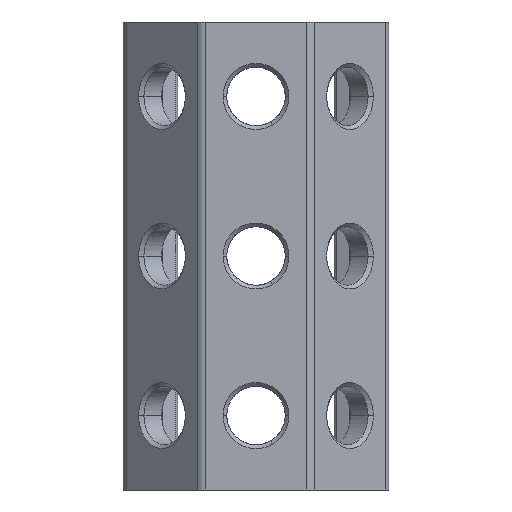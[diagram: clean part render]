
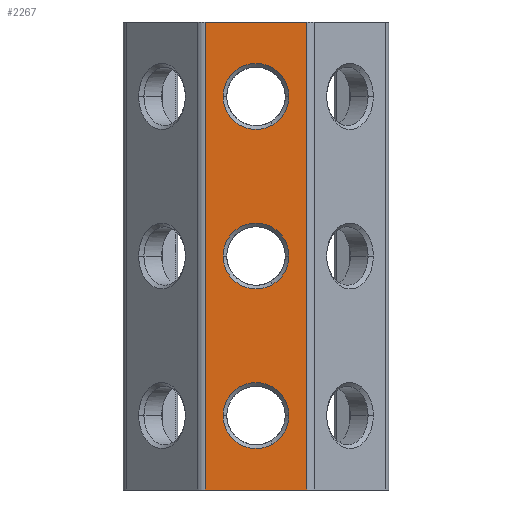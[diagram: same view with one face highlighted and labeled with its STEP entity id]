
A CAD part, left-side view. The second image highlights one B-rep face of the part: STEP entity #2267.
In plain terms, the highlighted planar face has unit normal (-1, 0, 0).
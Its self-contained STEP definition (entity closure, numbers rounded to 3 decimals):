
#554=CARTESIAN_POINT('Vertex',(-25.,-9.527,-88.)) ;
#559=CARTESIAN_POINT('Line Origine',(-25.,0.,-88.)) ;
#563=CARTESIAN_POINT('Vertex',(-25.,9.527,-88.)) ;
#1277=CARTESIAN_POINT('Vertex',(-25.,9.527,0.)) ;
#1280=CARTESIAN_POINT('Line Origine',(-25.,0.,0.)) ;
#1284=CARTESIAN_POINT('Vertex',(-25.,-9.527,0.)) ;
#2042=CARTESIAN_POINT('Line Origine',(-25.,9.527,-4078.)) ;
#2166=CARTESIAN_POINT('Line Origine',(-25.,-9.527,-4078.)) ;
#2178=CARTESIAN_POINT('Axis2P3D Location',(-25.,0.,-4078.)) ;
#2189=CARTESIAN_POINT('Axis2P3D Location',(-25.,0.,-14.)) ;
#2193=CARTESIAN_POINT('Vertex',(-25.,-3.1,-19.369)) ;
#2195=CARTESIAN_POINT('Vertex',(-25.,-6.2,-14.)) ;
#2198=CARTESIAN_POINT('Axis2P3D Location',(-25.,0.,-14.)) ;
#2202=CARTESIAN_POINT('Vertex',(-25.,6.2,-14.)) ;
#2205=CARTESIAN_POINT('Axis2P3D Location',(-25.,0.,-14.)) ;
#2215=CARTESIAN_POINT('Axis2P3D Location',(-25.,0.,-44.)) ;
#2219=CARTESIAN_POINT('Vertex',(-25.,-3.1,-49.369)) ;
#2221=CARTESIAN_POINT('Vertex',(-25.,-6.2,-44.)) ;
#2224=CARTESIAN_POINT('Axis2P3D Location',(-25.,0.,-44.)) ;
#2228=CARTESIAN_POINT('Vertex',(-25.,6.2,-44.)) ;
#2231=CARTESIAN_POINT('Axis2P3D Location',(-25.,0.,-44.)) ;
#2241=CARTESIAN_POINT('Axis2P3D Location',(-25.,0.,-74.)) ;
#2245=CARTESIAN_POINT('Vertex',(-25.,-3.1,-79.369)) ;
#2247=CARTESIAN_POINT('Vertex',(-25.,-6.2,-74.)) ;
#2250=CARTESIAN_POINT('Axis2P3D Location',(-25.,0.,-74.)) ;
#2254=CARTESIAN_POINT('Vertex',(-25.,6.2,-74.)) ;
#2257=CARTESIAN_POINT('Axis2P3D Location',(-25.,0.,-74.)) ;
#560=DIRECTION('Vector Direction',(0.,-1.,0.)) ;
#1281=DIRECTION('Vector Direction',(0.,-1.,0.)) ;
#2043=DIRECTION('Vector Direction',(0.,0.,1.)) ;
#2167=DIRECTION('Vector Direction',(0.,0.,1.)) ;
#2179=DIRECTION('Axis2P3D Direction',(-1.,0.,0.)) ;
#2180=DIRECTION('Axis2P3D XDirection',(0.,-1.,0.)) ;
#2190=DIRECTION('Axis2P3D Direction',(-1.,0.,0.)) ;
#2199=DIRECTION('Axis2P3D Direction',(-1.,0.,0.)) ;
#2206=DIRECTION('Axis2P3D Direction',(-1.,0.,0.)) ;
#2216=DIRECTION('Axis2P3D Direction',(-1.,0.,0.)) ;
#2225=DIRECTION('Axis2P3D Direction',(-1.,0.,0.)) ;
#2232=DIRECTION('Axis2P3D Direction',(-1.,0.,0.)) ;
#2242=DIRECTION('Axis2P3D Direction',(-1.,0.,0.)) ;
#2251=DIRECTION('Axis2P3D Direction',(-1.,0.,0.)) ;
#2258=DIRECTION('Axis2P3D Direction',(-1.,0.,0.)) ;
#2181=AXIS2_PLACEMENT_3D('Plane Axis2P3D',#2178,#2179,#2180) ;
#2191=AXIS2_PLACEMENT_3D('Circle Axis2P3D',#2189,#2190,$) ;
#2200=AXIS2_PLACEMENT_3D('Circle Axis2P3D',#2198,#2199,$) ;
#2207=AXIS2_PLACEMENT_3D('Circle Axis2P3D',#2205,#2206,$) ;
#2217=AXIS2_PLACEMENT_3D('Circle Axis2P3D',#2215,#2216,$) ;
#2226=AXIS2_PLACEMENT_3D('Circle Axis2P3D',#2224,#2225,$) ;
#2233=AXIS2_PLACEMENT_3D('Circle Axis2P3D',#2231,#2232,$) ;
#2243=AXIS2_PLACEMENT_3D('Circle Axis2P3D',#2241,#2242,$) ;
#2252=AXIS2_PLACEMENT_3D('Circle Axis2P3D',#2250,#2251,$) ;
#2259=AXIS2_PLACEMENT_3D('Circle Axis2P3D',#2257,#2258,$) ;
#2184=ORIENTED_EDGE('',*,*,#2170,.T.) ;
#2185=ORIENTED_EDGE('',*,*,#1286,.F.) ;
#2186=ORIENTED_EDGE('',*,*,#2046,.F.) ;
#2187=ORIENTED_EDGE('',*,*,#565,.T.) ;
#2211=ORIENTED_EDGE('',*,*,#2197,.F.) ;
#2212=ORIENTED_EDGE('',*,*,#2204,.F.) ;
#2213=ORIENTED_EDGE('',*,*,#2209,.F.) ;
#2237=ORIENTED_EDGE('',*,*,#2223,.F.) ;
#2238=ORIENTED_EDGE('',*,*,#2230,.F.) ;
#2239=ORIENTED_EDGE('',*,*,#2235,.F.) ;
#2263=ORIENTED_EDGE('',*,*,#2249,.F.) ;
#2264=ORIENTED_EDGE('',*,*,#2256,.F.) ;
#2265=ORIENTED_EDGE('',*,*,#2261,.F.) ;
#2214=FACE_BOUND('',#2210,.T.) ;
#2240=FACE_BOUND('',#2236,.T.) ;
#2266=FACE_BOUND('',#2262,.T.) ;
#561=VECTOR('Line Direction',#560,1.) ;
#1282=VECTOR('Line Direction',#1281,1.) ;
#2044=VECTOR('Line Direction',#2043,1.) ;
#2168=VECTOR('Line Direction',#2167,1.) ;
#2267=ADVANCED_FACE('\X2\51F853F0\X0\-\X2\62C94F38\X0\1',(#2188,#2214,#2240,#2266),#2182,.T.) ;
#2192=CIRCLE('generated circle',#2191,6.2) ;
#2201=CIRCLE('generated circle',#2200,6.2) ;
#2208=CIRCLE('generated circle',#2207,6.2) ;
#2218=CIRCLE('generated circle',#2217,6.2) ;
#2227=CIRCLE('generated circle',#2226,6.2) ;
#2234=CIRCLE('generated circle',#2233,6.2) ;
#2244=CIRCLE('generated circle',#2243,6.2) ;
#2253=CIRCLE('generated circle',#2252,6.2) ;
#2260=CIRCLE('generated circle',#2259,6.2) ;
#565=EDGE_CURVE('',#564,#555,#562,.T.) ;
#1286=EDGE_CURVE('',#1278,#1285,#1283,.T.) ;
#2046=EDGE_CURVE('',#564,#1278,#2045,.T.) ;
#2170=EDGE_CURVE('',#555,#1285,#2169,.T.) ;
#2197=EDGE_CURVE('',#2194,#2196,#2192,.T.) ;
#2204=EDGE_CURVE('',#2203,#2194,#2201,.T.) ;
#2209=EDGE_CURVE('',#2196,#2203,#2208,.T.) ;
#2223=EDGE_CURVE('',#2220,#2222,#2218,.T.) ;
#2230=EDGE_CURVE('',#2229,#2220,#2227,.T.) ;
#2235=EDGE_CURVE('',#2222,#2229,#2234,.T.) ;
#2249=EDGE_CURVE('',#2246,#2248,#2244,.T.) ;
#2256=EDGE_CURVE('',#2255,#2246,#2253,.T.) ;
#2261=EDGE_CURVE('',#2248,#2255,#2260,.T.) ;
#2183=EDGE_LOOP('',(#2184,#2185,#2186,#2187)) ;
#2210=EDGE_LOOP('',(#2211,#2212,#2213)) ;
#2236=EDGE_LOOP('',(#2237,#2238,#2239)) ;
#2262=EDGE_LOOP('',(#2263,#2264,#2265)) ;
#2188=FACE_OUTER_BOUND('',#2183,.T.) ;
#562=LINE('Line',#559,#561) ;
#1283=LINE('Line',#1280,#1282) ;
#2045=LINE('Line',#2042,#2044) ;
#2169=LINE('Line',#2166,#2168) ;
#2182=PLANE('',#2181) ;
#555=VERTEX_POINT('',#554) ;
#564=VERTEX_POINT('',#563) ;
#1278=VERTEX_POINT('',#1277) ;
#1285=VERTEX_POINT('',#1284) ;
#2194=VERTEX_POINT('',#2193) ;
#2196=VERTEX_POINT('',#2195) ;
#2203=VERTEX_POINT('',#2202) ;
#2220=VERTEX_POINT('',#2219) ;
#2222=VERTEX_POINT('',#2221) ;
#2229=VERTEX_POINT('',#2228) ;
#2246=VERTEX_POINT('',#2245) ;
#2248=VERTEX_POINT('',#2247) ;
#2255=VERTEX_POINT('',#2254) ;
